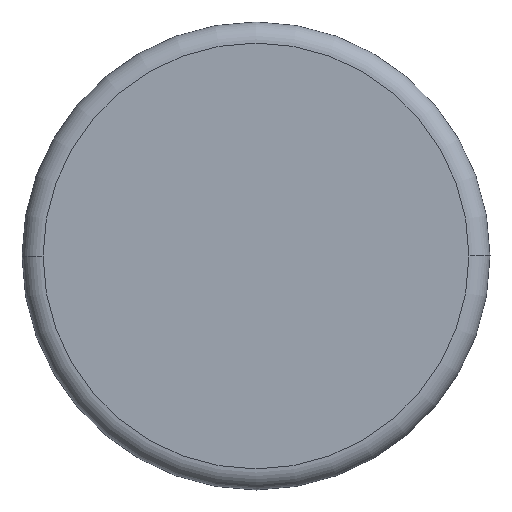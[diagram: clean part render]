
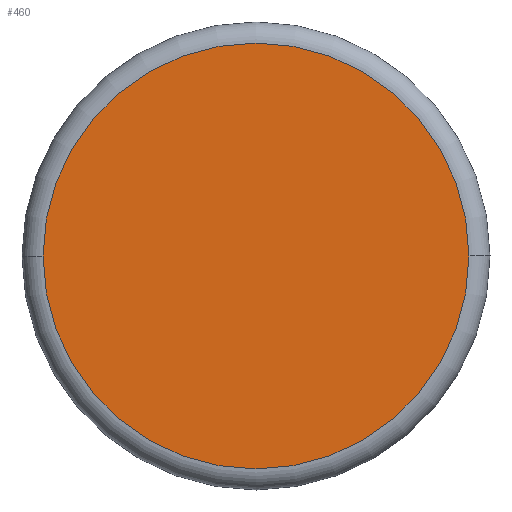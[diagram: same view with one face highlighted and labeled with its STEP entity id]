
A CAD part, front view. The second image highlights one B-rep face of the part: STEP entity #460.
In plain terms, the highlighted planar face has unit normal (0, -1, 0).
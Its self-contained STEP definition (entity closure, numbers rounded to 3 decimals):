
#28 = AXIS2_PLACEMENT_3D ( 'NONE', #467, #108, #34 ) ;
#34 = DIRECTION ( 'NONE',  ( -1., 0., 0. ) ) ;
#64 = CARTESIAN_POINT ( 'NONE',  ( -9.1, 0., 0. ) ) ;
#68 = CIRCLE ( 'NONE', #28, 9.1 ) ;
#71 = VERTEX_POINT ( 'NONE', #64 ) ;
#96 = DIRECTION ( 'NONE',  ( 0., 1., 0. ) ) ;
#107 = CIRCLE ( 'NONE', #302, 9.1 ) ;
#108 = DIRECTION ( 'NONE',  ( 0., 1., 0. ) ) ;
#113 = CARTESIAN_POINT ( 'NONE',  ( 0., 0., 0. ) ) ;
#139 = EDGE_CURVE ( 'NONE', #404, #71, #68, .T. ) ;
#170 = CARTESIAN_POINT ( 'NONE',  ( 0., 0., 0. ) ) ;
#209 = AXIS2_PLACEMENT_3D ( 'NONE', #113, #291, #434 ) ;
#274 = ORIENTED_EDGE ( 'NONE', *, *, #139, .F. ) ;
#286 = ORIENTED_EDGE ( 'NONE', *, *, #413, .F. ) ;
#291 = DIRECTION ( 'NONE',  ( 0., -1., 0. ) ) ;
#302 = AXIS2_PLACEMENT_3D ( 'NONE', #170, #96, #423 ) ;
#334 = EDGE_LOOP ( 'NONE', ( #286, #274 ) ) ;
#353 = PLANE ( 'NONE',  #209 ) ;
#378 = CARTESIAN_POINT ( 'NONE',  ( 9.1, 0., 0. ) ) ;
#397 = FACE_OUTER_BOUND ( 'NONE', #334, .T. ) ;
#404 = VERTEX_POINT ( 'NONE', #378 ) ;
#413 = EDGE_CURVE ( 'NONE', #71, #404, #107, .T. ) ;
#423 = DIRECTION ( 'NONE',  ( -1., 0., 0. ) ) ;
#434 = DIRECTION ( 'NONE',  ( 1., 0., 0. ) ) ;
#460 = ADVANCED_FACE ( 'NONE', ( #397 ), #353, .T. ) ;
#467 = CARTESIAN_POINT ( 'NONE',  ( 0., 0., 0. ) ) ;
